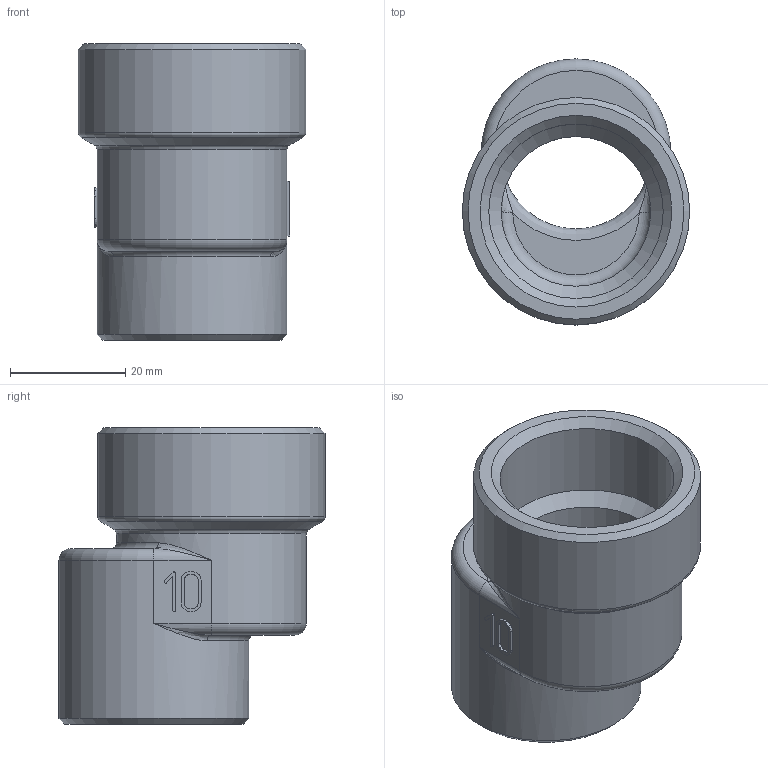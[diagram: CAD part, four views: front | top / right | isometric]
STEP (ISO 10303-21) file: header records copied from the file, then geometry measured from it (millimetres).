
FILE_DESCRIPTION(('STEP AP203'), '1');
FILE_NAME('ÂÐ.752289.013 - VTr.094.N.06010 - Ôèò. ðåçüá. ýêñö', '2024-06-21T11:54:04', ('Boss'), (''), 'C3D Converter', 'C3D Toolkit', '');
FILE_SCHEMA(('CONFIG_CONTROL_DESIGN'));
Length unit declared in the file: millimetre
Products named in the file (1): ВР.752289.013
Bounding box: 39.5 x 46.25 x 51.5 mm (x, y, z)
Volume: 22596.7 mm3; surface area: 12379.3 mm2
Topology: 1 solids, 1 shells, 104 faces, 264 edges, 160 vertices
Faces by surface type: plane 42, extrusion 27, cylinder 11, torus 11, bspline 8, cone 5
Full cylindrical faces by diameter (mm): 26 x2, 30.292 x1, 33 x2, 39.5 x1
Entity records: 4023 total; most frequent: CARTESIAN_POINT 1737, ORIENTED_EDGE 484, DIRECTION 373, EDGE_CURVE 242, VERTEX_POINT 160, VECTOR 153, EDGE_LOOP 126, LINE 126
